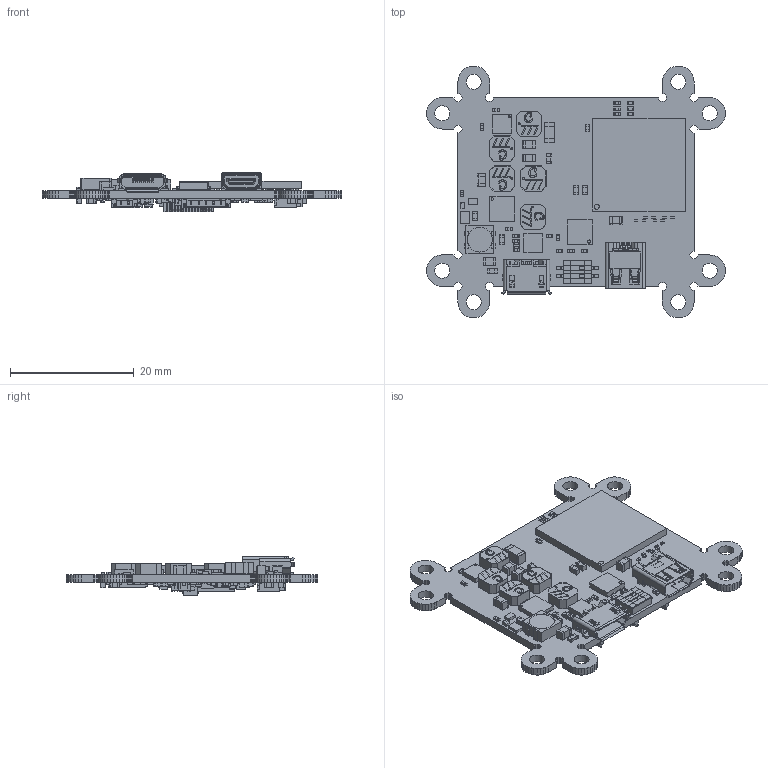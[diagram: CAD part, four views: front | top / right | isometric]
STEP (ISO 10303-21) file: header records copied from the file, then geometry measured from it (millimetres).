
FILE_DESCRIPTION(('Open CASCADE Model'),'2;1');
FILE_NAME('Open CASCADE Shape Model','2017-01-09T09:44:16',('Author'),( 'Open CASCADE'),'Open CASCADE STEP processor 6.5','Open CASCADE 6.5' ,'Unknown');
FILE_SCHEMA(('AUTOMOTIVE_DESIGN { 1 0 10303 214 1 1 1 1 }'));
Length unit declared in the file: millimetre
Products named in the file (429): PCB; Board; C69; 523923488; Extruded; 523914272; C68; C12; 523923616; 523923744; L11; 523911968; 523912352; 523912480; 524617680; Cylinder; 523912864; C67; 523923104; 523922976; U13; 524618880; 523912736; 523923872; 523919392; C66; 523913248; 523922592; R27; 523914528; 523914784; 523914912; 523914144; 523914016; R26; R25; U12; 524618400; Sphere; 523912224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
Assembly tree (1243 placements, depth 4):
  PCB
    Board
    C69
      523923488
        Extruded
      523914272  x2
        Extruded
    C68
      523923488
        Extruded
      523914272  x2
        Extruded
    C12
      523923616
        Extruded
      523923744  x2
        Extruded
    L11
      523911968  x4
        Extruded
      523912352  x4
        Extruded
      523912480  x4
        Extruded
      524617680
        Cylinder
      523912864
        Extruded
    C67
      523923104
        Extruded
      523922976  x2
        Extruded
    U13
      524618880
        Cylinder
      523912736
        Extruded
      523923872  x6
        Extruded
      523919392
        Extruded
    C66
      523913248  x2
        Extruded
      523922592
        Extruded
    R27
      523914528  x2
        Extruded
      523914784  x2
        Extruded
      523914912  x2
        Extruded
      523914144
        Extruded
      523914016
        Extruded
    R26
      523914528  x2
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Bounding box: 48.28 x 40.66 x 6.45 mm (x, y, z)
Volume: 2541.1 mm3; surface area: 6691.8 mm2
Topology: 948 solids, 948 shells, 9066 faces, 22815 edges, 16208 vertices
Faces by surface type: plane 8469, cylinder 458, sphere 74, bspline 45, cone 20
Full cylindrical faces by diameter (mm): 0.1 x3, 0.2 x2, 0.3 x1, 0.4 x4, 0.5 x1, 0.8 x1, 1 x1, 2.438 x8, 4 x1
Entity records: 316029 total; most frequent: CARTESIAN_POINT 68863, DIRECTION 44478, LINE 31635, VECTOR 31635, ORIENTED_EDGE 23206, PCURVE 23206, DEFINITIONAL_REPRESENTATION 23206, EDGE_CURVE 11603
